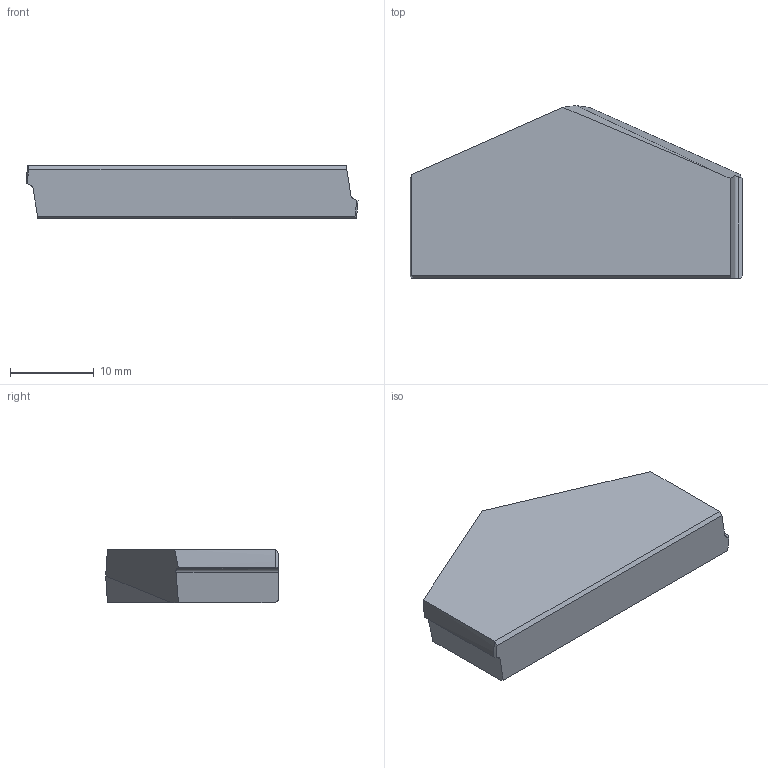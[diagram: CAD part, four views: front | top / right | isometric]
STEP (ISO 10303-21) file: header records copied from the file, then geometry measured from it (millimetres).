
FILE_DESCRIPTION (( 'STEP AP214' ), '1' );
FILE_NAME ('02-1062.STEP', '2022-06-24T05:45:46', ( '' ), ( '' ), 'SwSTEP 2.0', 'SolidWorks 2018', '' );
FILE_SCHEMA (( 'AUTOMOTIVE_DESIGN' ));
Length unit declared in the file: millimetre
Products named in the file (1): 02-1062
Bounding box: 39.64 x 20.6 x 6.4 mm (x, y, z)
Volume: 3980.6 mm3; surface area: 1902.6 mm2
Topology: 1 solids, 1 shells, 19 faces, 50 edges, 33 vertices
Faces by surface type: plane 13, cylinder 4, cone 2
Entity records: 620 total; most frequent: CARTESIAN_POINT 133, ORIENTED_EDGE 100, DIRECTION 86, EDGE_CURVE 50, VECTOR 34, LINE 34, VERTEX_POINT 33, AXIS2_PLACEMENT_3D 26
